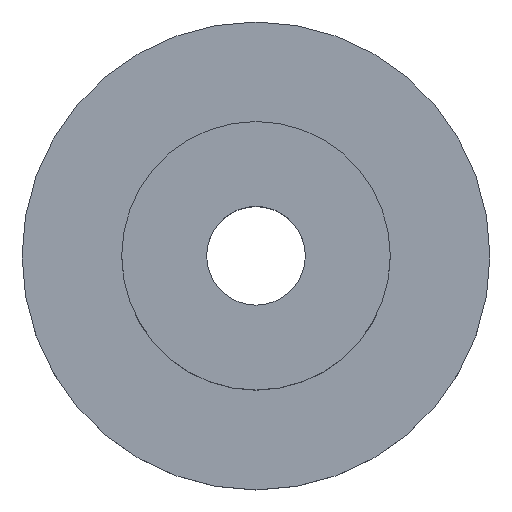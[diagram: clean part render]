
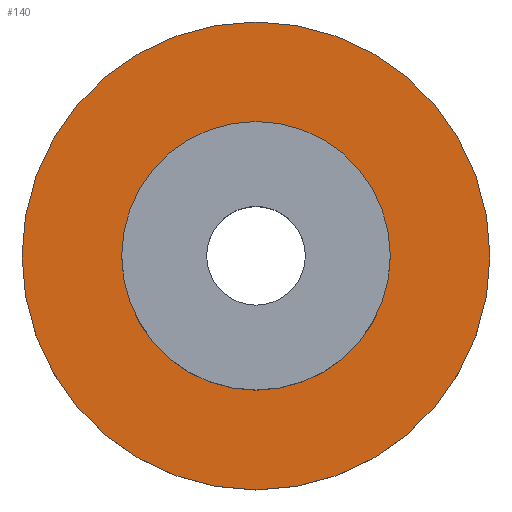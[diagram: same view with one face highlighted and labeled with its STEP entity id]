
A CAD part, top view. The second image highlights one B-rep face of the part: STEP entity #140.
In plain terms, the highlighted planar face has unit normal (0, 0, 1).
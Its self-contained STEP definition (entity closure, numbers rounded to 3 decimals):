
#74 = CYLINDRICAL_SURFACE('',#75,34.85);
#75 = AXIS2_PLACEMENT_3D('',#76,#77,#78);
#76 = CARTESIAN_POINT('',(0.,0.,0.));
#77 = DIRECTION('',(0.,0.,1.));
#78 = DIRECTION('',(1.,0.,-0.));
#91 = VERTEX_POINT('',#92);
#92 = CARTESIAN_POINT('',(34.85,0.,6.5));
#113 = EDGE_CURVE('',#91,#91,#114,.T.);
#114 = SURFACE_CURVE('',#115,(#120,#127),.PCURVE_S1.);
#115 = CIRCLE('',#116,34.85);
#116 = AXIS2_PLACEMENT_3D('',#117,#118,#119);
#117 = CARTESIAN_POINT('',(0.,0.,6.5));
#118 = DIRECTION('',(0.,0.,1.));
#119 = DIRECTION('',(1.,0.,-0.));
#120 = PCURVE('',#74,#121);
#121 = DEFINITIONAL_REPRESENTATION('',(#122),#126);
#122 = LINE('',#123,#124);
#123 = CARTESIAN_POINT('',(0.,6.5));
#124 = VECTOR('',#125,1.);
#125 = DIRECTION('',(1.,0.));
#126 = ( GEOMETRIC_REPRESENTATION_CONTEXT(2) 
PARAMETRIC_REPRESENTATION_CONTEXT() REPRESENTATION_CONTEXT('2D SPACE',''
  ) );
#127 = PCURVE('',#128,#133);
#128 = PLANE('',#129);
#129 = AXIS2_PLACEMENT_3D('',#130,#131,#132);
#130 = CARTESIAN_POINT('',(0.,0.,6.5));
#131 = DIRECTION('',(0.,0.,1.));
#132 = DIRECTION('',(1.,0.,-0.));
#133 = DEFINITIONAL_REPRESENTATION('',(#134),#138);
#134 = CIRCLE('',#135,34.85);
#135 = AXIS2_PLACEMENT_2D('',#136,#137);
#136 = CARTESIAN_POINT('',(0.,0.));
#137 = DIRECTION('',(1.,0.));
#138 = ( GEOMETRIC_REPRESENTATION_CONTEXT(2) 
PARAMETRIC_REPRESENTATION_CONTEXT() REPRESENTATION_CONTEXT('2D SPACE',''
  ) );
#140 = ADVANCED_FACE('',(#141,#144),#128,.T.);
#141 = FACE_BOUND('',#142,.T.);
#142 = EDGE_LOOP('',(#143));
#143 = ORIENTED_EDGE('',*,*,#113,.T.);
#144 = FACE_BOUND('',#145,.T.);
#145 = EDGE_LOOP('',(#146));
#146 = ORIENTED_EDGE('',*,*,#147,.F.);
#147 = EDGE_CURVE('',#148,#148,#150,.T.);
#148 = VERTEX_POINT('',#149);
#149 = CARTESIAN_POINT('',(20.,0.,6.5));
#150 = SURFACE_CURVE('',#151,(#156,#163),.PCURVE_S1.);
#151 = CIRCLE('',#152,20.);
#152 = AXIS2_PLACEMENT_3D('',#153,#154,#155);
#153 = CARTESIAN_POINT('',(0.,0.,6.5));
#154 = DIRECTION('',(0.,0.,1.));
#155 = DIRECTION('',(1.,0.,-0.));
#156 = PCURVE('',#128,#157);
#157 = DEFINITIONAL_REPRESENTATION('',(#158),#162);
#158 = CIRCLE('',#159,20.);
#159 = AXIS2_PLACEMENT_2D('',#160,#161);
#160 = CARTESIAN_POINT('',(0.,0.));
#161 = DIRECTION('',(1.,0.));
#162 = ( GEOMETRIC_REPRESENTATION_CONTEXT(2) 
PARAMETRIC_REPRESENTATION_CONTEXT() REPRESENTATION_CONTEXT('2D SPACE',''
  ) );
#163 = PCURVE('',#164,#169);
#164 = CYLINDRICAL_SURFACE('',#165,20.);
#165 = AXIS2_PLACEMENT_3D('',#166,#167,#168);
#166 = CARTESIAN_POINT('',(0.,0.,6.5));
#167 = DIRECTION('',(0.,0.,1.));
#168 = DIRECTION('',(1.,0.,-0.));
#169 = DEFINITIONAL_REPRESENTATION('',(#170),#174);
#170 = LINE('',#171,#172);
#171 = CARTESIAN_POINT('',(0.,0.));
#172 = VECTOR('',#173,1.);
#173 = DIRECTION('',(1.,0.));
#174 = ( GEOMETRIC_REPRESENTATION_CONTEXT(2) 
PARAMETRIC_REPRESENTATION_CONTEXT() REPRESENTATION_CONTEXT('2D SPACE',''
  ) );
